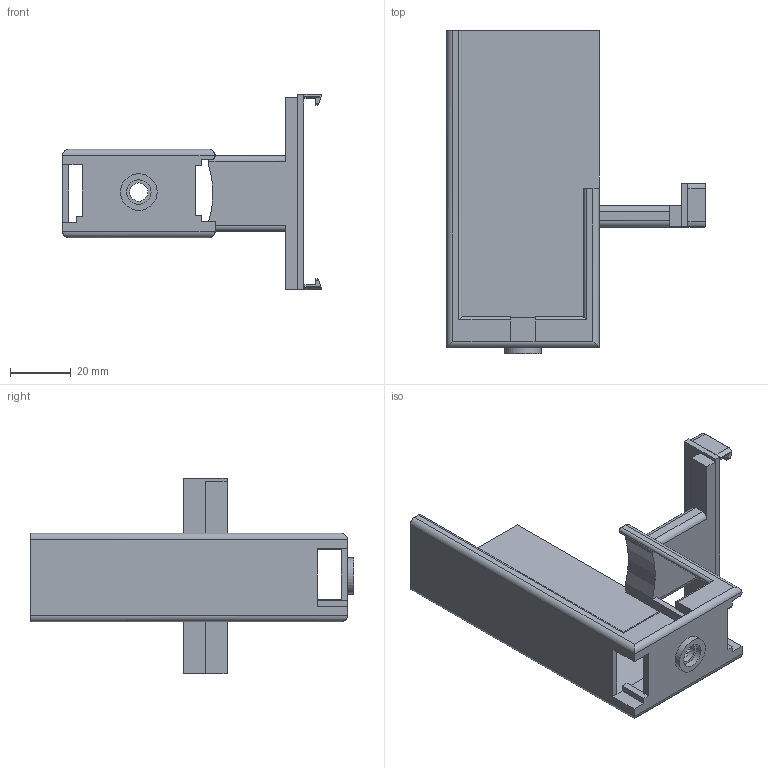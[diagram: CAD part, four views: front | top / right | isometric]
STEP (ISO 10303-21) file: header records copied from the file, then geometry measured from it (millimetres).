
FILE_DESCRIPTION (( 'STEP AP214' ), '1' );
FILE_NAME ('handheld-body-section-a.step', '2026-11-14T03:54:03', ( '' ), ( '' ), 'SwSTEP 2.0', 'SolidWorks 2024', '' );
FILE_SCHEMA (( 'AUTOMOTIVE_DESIGN' ));
Length unit declared in the file: millimetre
Products named in the file (3): DexCap_D435_Vive_Bracket_v2; handheld-body-section-a; body_new
Assembly tree (2 placements, depth 2):
  handheld-body-section-a
    body_new
    DexCap_D435_Vive_Bracket_v2
Bounding box: 84.88 x 106 x 64.01 mm (x, y, z)
Volume: 29379.8 mm3; surface area: 26206.5 mm2
Topology: 2 solids, 2 shells, 122 faces, 340 edges, 220 vertices
Faces by surface type: plane 94, cylinder 28
Full cylindrical faces by diameter (mm): 6 x1, 8 x1, 12 x1
Entity records: 3936 total; most frequent: CARTESIAN_POINT 735, ORIENTED_EDGE 672, DIRECTION 622, EDGE_CURVE 336, VECTOR 274, LINE 274, VERTEX_POINT 219, AXIS2_PLACEMENT_3D 174
